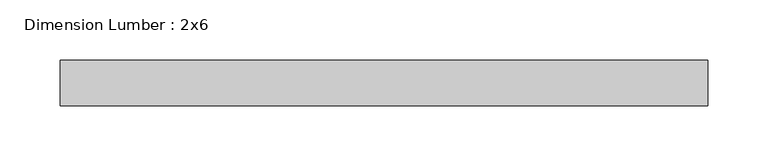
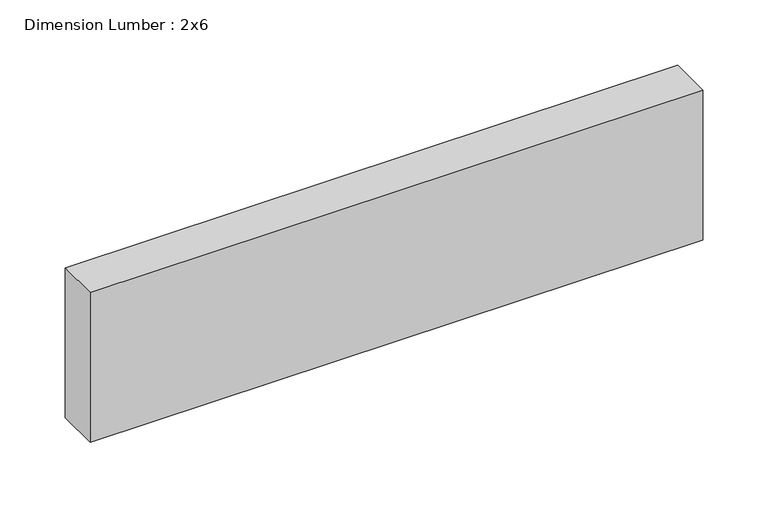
"""IFC4 building model written with IfcOpenShell, lengths in millimetres: beam geometry, Dimension Lumber : 2x6."""

from ifc_helpers import new_model, si_unit, frame, origin, place, context, project, spatial, polyline, outline, extrude, source, transform, mapped, element, save


def dimension_lumber_2x6_5879879b(model_context):
    return source(origin(), model_context, "Body", "SweptSolid", [
        extrude(outline(polyline([(269.875, 19.05), (269.875, -19.05), (-269.875, -19.05), (-269.875, 19.05), (269.875, 19.05)])), frame((0.0, 0.0, -69.85), z_axis=(0.0, 0.0, 1.0), x_axis=(1.0, 0.0, 0.0)), (0.0, 0.0, 1.0), 139.7),
    ])


if __name__ == "__main__":
    model = new_model("IFC4")
    model_context = context("Model", 3, world=origin())
    ifc_project = project(units=[si_unit("LENGTHUNIT", "METRE", prefix="MILLI")], contexts=[model_context])
    site = spatial("IfcSite", under=ifc_project)
    building = spatial("IfcBuilding", under=site)
    placement = place(None, origin())
    dimension_lumber_2x6_shape = dimension_lumber_2x6_5879879b(model_context)
    element("IfcBeam", 1, ObjectType="Dimension Lumber : 2x6", at=placement, inside=building, context=model_context, shape_type="MappedRepresentation", body=[
        mapped(dimension_lumber_2x6_shape, transform((0.0, 0.0, 0.0), x_axis=(1.0, 0.0, 0.0), y_axis=(0.0, 1.0, 0.0), z_axis=(0.0, 0.0, 1.0))),
    ])
    save(model, "model.ifc")
